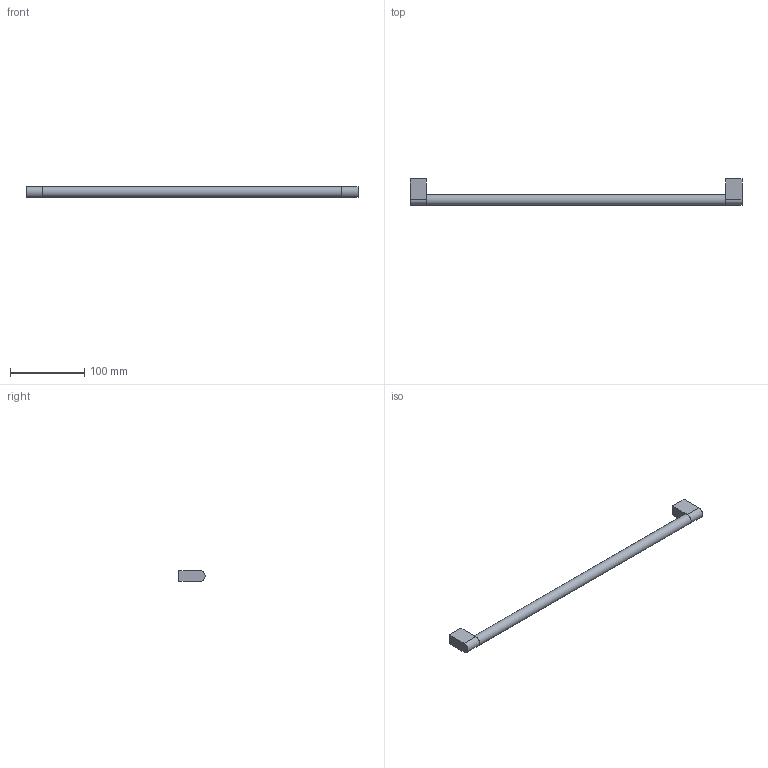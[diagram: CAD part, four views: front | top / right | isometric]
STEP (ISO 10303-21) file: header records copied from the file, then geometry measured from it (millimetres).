
FILE_DESCRIPTION( ( 'STEP AP214' ), '1' );
FILE_NAME( 'C:/Shahbaz/Shahbaz D&D/Task/Working-ON/Varna/QC/9332354.stp', '2023-08-29T06:59:40', ( '' ), ( '' ), ' ', 'PARTsolutions', ' ' );
FILE_SCHEMA( ( 'AUTOMOTIVE_DESIGN { 1 0 10303 214 1 1 1 1 }' ) );
Length unit declared in the file: millimetre
Products named in the file (1): _9332354
Bounding box: 446 x 35.36 x 14.64 mm (x, y, z)
Volume: 84523.7 mm3; surface area: 24303.3 mm2
Topology: 1 solids, 1 shells, 17 faces, 33 edges, 22 vertices
Faces by surface type: plane 12, cylinder 5
Full cylindrical faces by diameter (mm): 6.2 x2, 14.2 x1
Entity records: 574 total; most frequent: DIRECTION 76, CARTESIAN_POINT 70, ORIENTED_EDGE 60, EDGE_CURVE 30, AXIS2_PLACEMENT_3D 28, EDGE_LOOP 24, VERTEX_POINT 22, FACE_OUTER_BOUND 20
